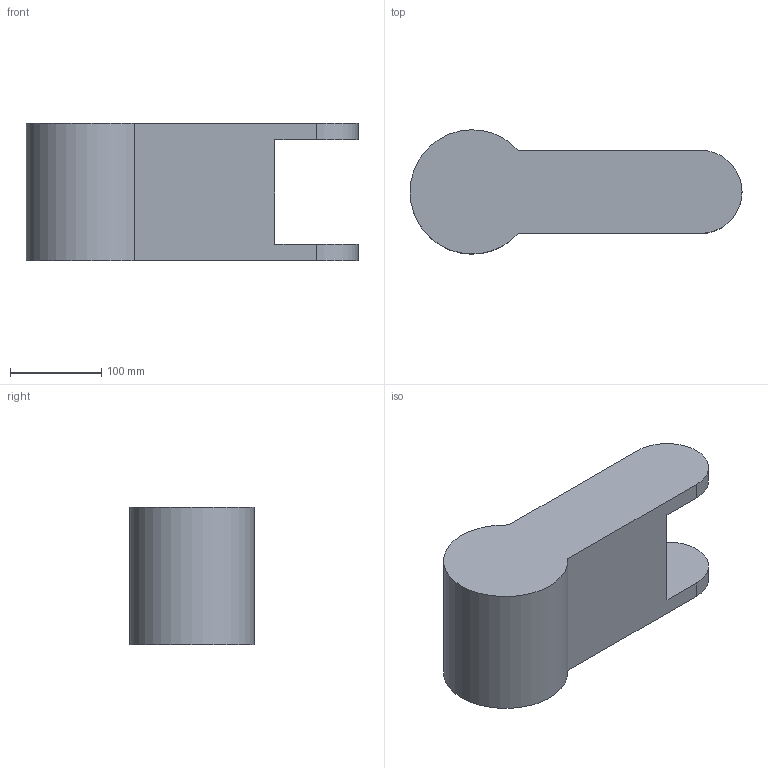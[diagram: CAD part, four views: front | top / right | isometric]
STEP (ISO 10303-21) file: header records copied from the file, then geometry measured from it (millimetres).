
FILE_DESCRIPTION (( 'STEP AP203' ), '1' );
FILE_NAME ('Eslabon2_Default_sldprt.STEP', '2022-03-11T04:15:50', ( '' ), ( '' ), 'SwSTEP 2.0', 'SolidWorks 2020', '' );
FILE_SCHEMA (( 'CONFIG_CONTROL_DESIGN' ));
Length unit declared in the file: millimetre
Products named in the file (1): Eslabon2_Default_sldprt
Bounding box: 363.5 x 135.97 x 150 mm (x, y, z)
Volume: 4383239.4 mm3; surface area: 198585 mm2
Topology: 1 solids, 1 shells, 12 faces, 30 edges, 20 vertices
Faces by surface type: plane 7, cylinder 5
Entity records: 441 total; most frequent: DIRECTION 66, CARTESIAN_POINT 63, ORIENTED_EDGE 60, EDGE_CURVE 30, AXIS2_PLACEMENT_3D 23, LINE 20, VERTEX_POINT 20, VECTOR 20
